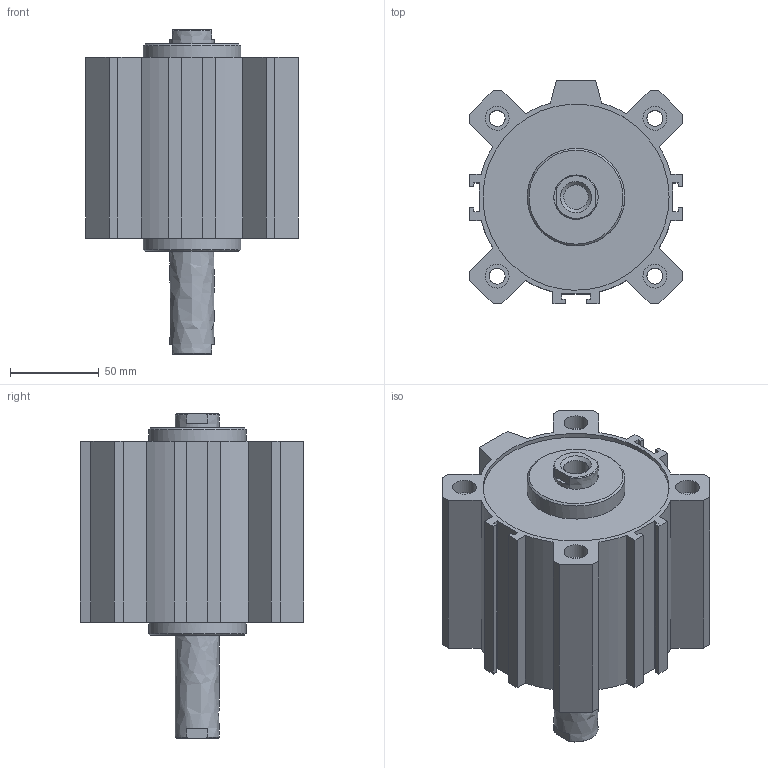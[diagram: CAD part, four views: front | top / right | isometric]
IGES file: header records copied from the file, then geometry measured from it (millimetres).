
Global section: file name: 1514_100_0050; native system: Autodesk Inventor 2014; preprocessor: unknown; author: A. Manieri; date: 20160824.163243; units: millimetre
Bounding box: 120 x 126 x 183 mm (x, y, z)
Volume: 861061.2 mm3; surface area: 179750 mm2
Topology: 2 solids, 2 shells, 132 faces, 346 edges, 238 vertices
Faces by surface type: bspline 132
